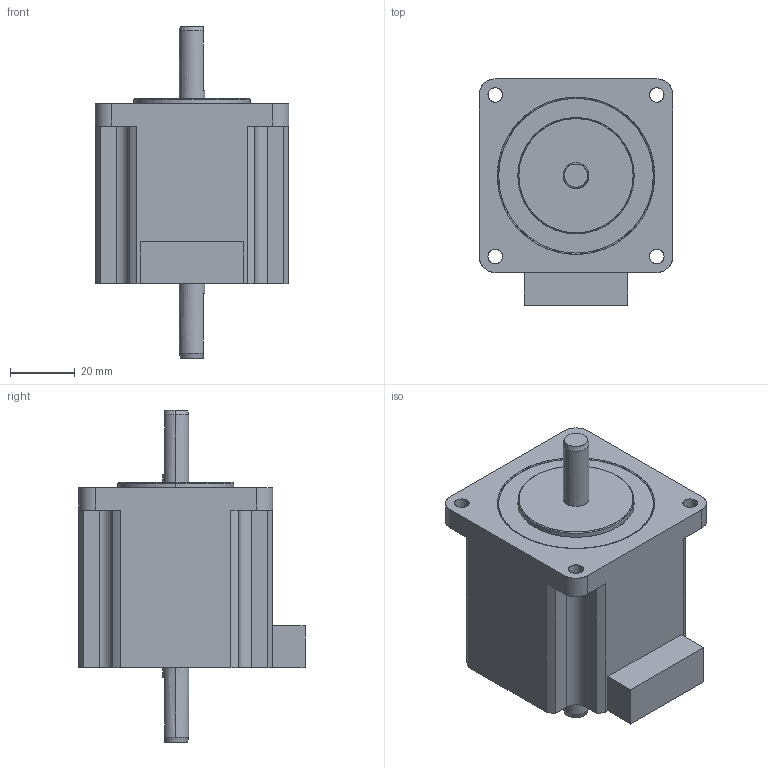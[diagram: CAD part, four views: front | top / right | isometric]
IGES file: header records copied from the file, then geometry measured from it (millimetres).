
Start section: SolidWorks IGES file using analytic representation for surfaces
Global section: file name: C:\Users\7666\Desktop\PMSA-U60D3D_3D\PMSA-U60D3D_3D.IGS; native system: SolidWorks 2014; preprocessor: SolidWorks 2014; author: 7666; date: 170131.164315; units: millimetre
Bounding box: 60 x 70 x 102.8 mm (x, y, z)
Surface area: 22196.6 mm2 (no closed solid volume)
Topology: 0 solids, 0 shells, 73 faces, 1133 edges, 1133 vertices
Faces by surface type: revolution 39, bspline 34
